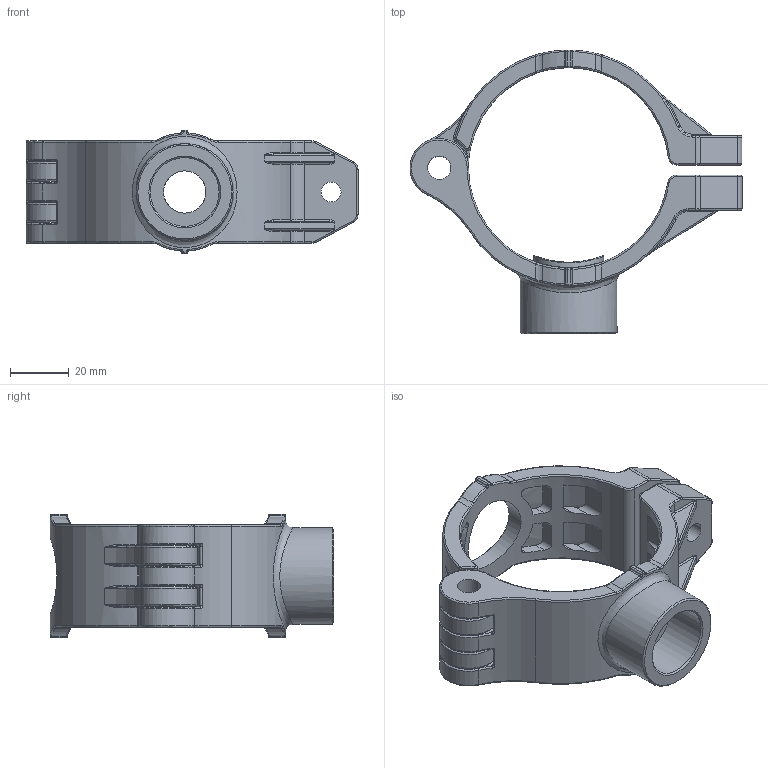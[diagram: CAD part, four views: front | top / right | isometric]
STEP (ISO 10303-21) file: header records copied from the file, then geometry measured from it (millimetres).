
FILE_DESCRIPTION(/* description */ (''),/* implementation_level */ '2;1');
FILE_NAME(/* name */ 'AU19 6199 00.stp',/* time_stamp */ '2025-07-25T14:07:51+08:00',/* author */ (''),/* organization */ (''),/* preprocessor_version */ 'ST-DEVELOPER v11',/* originating_system */ 'SIEMENS PLM Software NX 7.5',/* authorisation */ '');
FILE_SCHEMA (('CONFIG_CONTROL_DESIGN'));
Length unit declared in the file: millimetre
Products named in the file (1): Admi3CF6xybs
Bounding box: 113.39 x 96.85 x 42.31 mm (x, y, z)
Volume: 66854 mm3; surface area: 33159.7 mm2
Topology: 2 solids, 2 shells, 587 faces, 1467 edges, 888 vertices
Faces by surface type: cylinder 250, torus 111, plane 106, bspline 101, sphere 16, cone 3
Full cylindrical faces by diameter (mm): 23.5 x1, 33 x1
Entity records: 25443 total; most frequent: CARTESIAN_POINT 12520, ORIENTED_EDGE 2876, DIRECTION 2488, EDGE_CURVE 1438, AXIS2_PLACEMENT_3D 1029, VERTEX_POINT 882, EDGE_LOOP 632, ADVANCED_FACE 587
